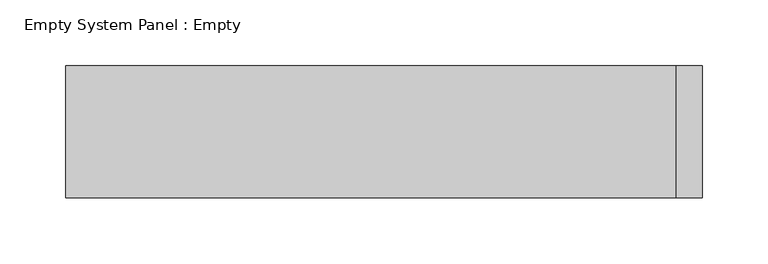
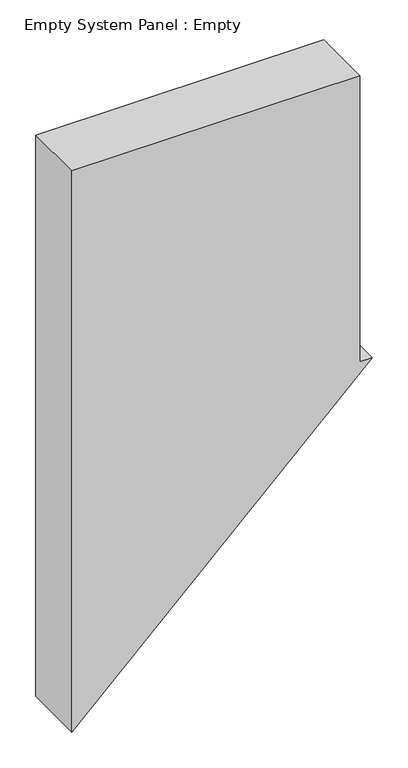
"""IFC4 building model written with IfcOpenShell, lengths in millimetres: plate geometry, Empty System Panel : Empty."""

from ifc_helpers import new_model, si_unit, frame, origin, place, context, project, spatial, polyline, outline, extrude, source, transform, mapped, element, save


def empty_system_panel_empty_9640a03e(model_context):
    return source(origin(), model_context, "Body", "SweptSolid", [
        extrude(outline(polyline([(0.0, -241.6440778), (467.7734613, 241.6440778), (467.7734613, 221.6440778), (954.9048755, 221.6440778), (954.9048755, -241.6440778), (0.0, -241.6440778)])), frame((0.0, -50.0, 0.0), z_axis=(0.0, 1.0, 0.0), x_axis=(0.0, 0.0, 1.0)), (0.0, 0.0, 1.0), 100.0),
    ])


if __name__ == "__main__":
    model = new_model("IFC4")
    model_context = context("Model", 3, world=origin())
    ifc_project = project(units=[si_unit("LENGTHUNIT", "METRE", prefix="MILLI")], contexts=[model_context])
    site = spatial("IfcSite", under=ifc_project)
    building = spatial("IfcBuilding", under=site)
    placement = place(None, origin())
    empty_system_panel_empty_shape = empty_system_panel_empty_9640a03e(model_context)
    element("IfcPlate", 1, ObjectType="Empty System Panel : Empty", at=placement, inside=building, context=model_context, shape_type="MappedRepresentation", body=[
        mapped(empty_system_panel_empty_shape, transform((0.0, 0.0, 0.0), x_axis=(1.0, 0.0, 0.0), y_axis=(0.0, 1.0, 0.0), z_axis=(0.0, 0.0, 1.0))),
    ])
    save(model, "model.ifc")
